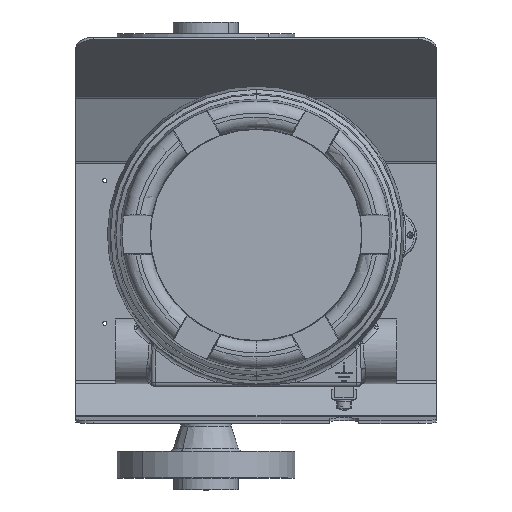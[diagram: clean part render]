
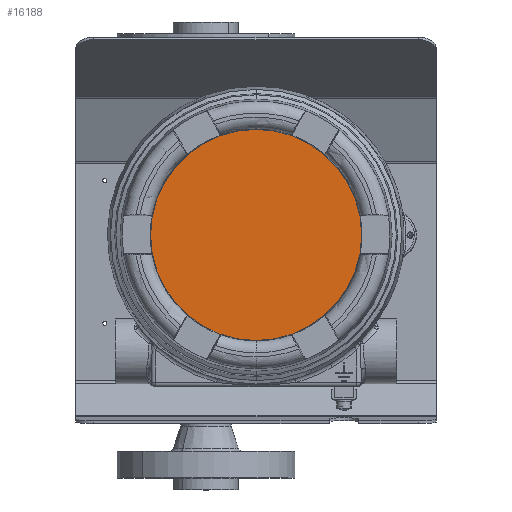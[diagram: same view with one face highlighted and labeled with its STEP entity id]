
A CAD part, top view. The second image highlights one B-rep face of the part: STEP entity #16188.
In plain terms, the highlighted planar face has unit normal (0, 0, 1).
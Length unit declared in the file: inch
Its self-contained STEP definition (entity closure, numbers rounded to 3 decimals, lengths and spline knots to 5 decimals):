
#210 = ORIENTED_EDGE ( 'NONE', *, *, #45330, .T. ) ;
#2466 = CARTESIAN_POINT ( 'NONE',  ( 0., 0., 0. ) ) ;
#2727 = EDGE_LOOP ( 'NONE', ( #210, #15829 ) ) ;
#2779 = CIRCLE ( 'NONE', #44745, 2.536 ) ;
#2912 = DIRECTION ( 'NONE',  ( 1., 0., 0. ) ) ;
#6872 = VERTEX_POINT ( 'NONE', #16104 ) ;
#9145 = AXIS2_PLACEMENT_3D ( 'NONE', #13526, #38212, #2912 ) ;
#12108 = VERTEX_POINT ( 'NONE', #40368 ) ;
#13526 = CARTESIAN_POINT ( 'NONE',  ( 0., 0., 0. ) ) ;
#15254 = CARTESIAN_POINT ( 'NONE',  ( 0., 0., 0. ) ) ;
#15829 = ORIENTED_EDGE ( 'NONE', *, *, #28202, .T. ) ;
#16104 = CARTESIAN_POINT ( 'NONE',  ( -2.536, 0., 0. ) ) ;
#16188 = ADVANCED_FACE ( 'NONE', ( #41436 ), #34059, .T. ) ;
#16542 = DIRECTION ( 'NONE',  ( 1., 0., 0. ) ) ;
#21069 = DIRECTION ( 'NONE',  ( 0., 0., 1. ) ) ;
#22217 = AXIS2_PLACEMENT_3D ( 'NONE', #2466, #44890, #16542 ) ;
#28202 = EDGE_CURVE ( 'NONE', #12108, #6872, #2779, .T. ) ;
#34059 = PLANE ( 'NONE',  #22217 ) ;
#38212 = DIRECTION ( 'NONE',  ( 0., 0., 1. ) ) ;
#38615 = CIRCLE ( 'NONE', #9145, 2.536 ) ;
#40368 = CARTESIAN_POINT ( 'NONE',  ( 2.536, 0., 0. ) ) ;
#41436 = FACE_OUTER_BOUND ( 'NONE', #2727, .T. ) ;
#43575 = DIRECTION ( 'NONE',  ( 1., 0., 0. ) ) ;
#44745 = AXIS2_PLACEMENT_3D ( 'NONE', #15254, #21069, #43575 ) ;
#44890 = DIRECTION ( 'NONE',  ( 0., 0., 1. ) ) ;
#45330 = EDGE_CURVE ( 'NONE', #6872, #12108, #38615, .T. ) ;
